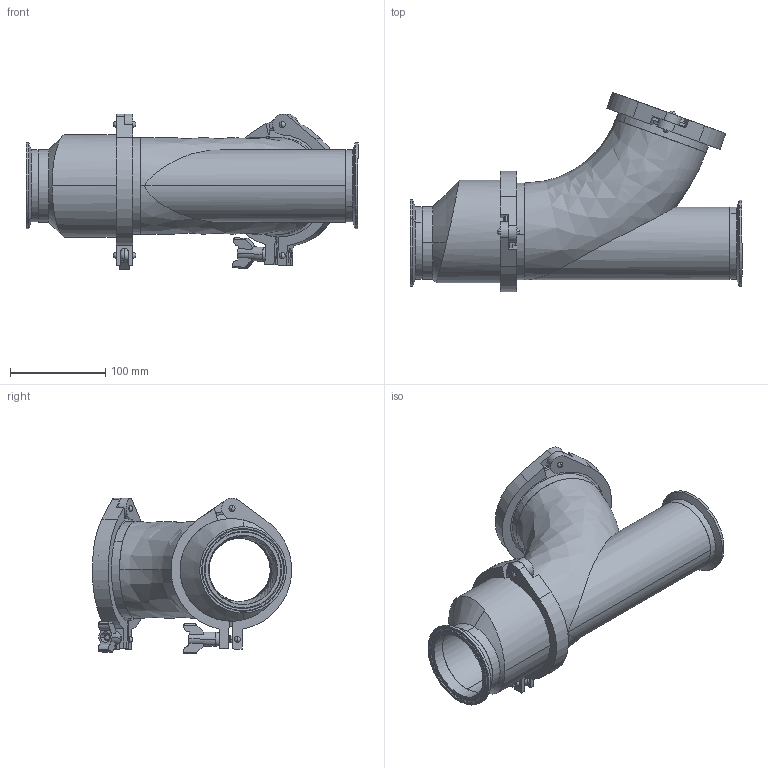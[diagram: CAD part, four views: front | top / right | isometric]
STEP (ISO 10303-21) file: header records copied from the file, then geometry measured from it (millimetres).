
FILE_DESCRIPTION (( 'STEP AP203' ), '1' );
FILE_NAME ('EG45BY-63.0.STEP', '2019-11-14T20:26:39', ( 'vneprd' ), ( 'Microsoft' ), 'SwSTEP 2.0', 'SolidWorks 2018', '' );
FILE_SCHEMA (( 'CONFIG_CONTROL_DESIGN' ));
Products named in the file (1): EG45BY-63.0
Bounding box: 349.25 x 209.65 x 163.95 mm (x, y, z)
Volume: 761891.8 mm3; surface area: 384776.8 mm2
Topology: 21 solids, 21 shells, 501 faces, 1242 edges, 798 vertices
Faces by surface type: cylinder 240, plane 123, torus 64, cone 32, sphere 28, bspline 14
Entity records: 35747 total; most frequent: CARTESIAN_POINT 24160, ORIENTED_EDGE 2476, DIRECTION 2404, EDGE_CURVE 1238, AXIS2_PLACEMENT_3D 978, VERTEX_POINT 798, EDGE_LOOP 562, FACE_OUTER_BOUND 501
